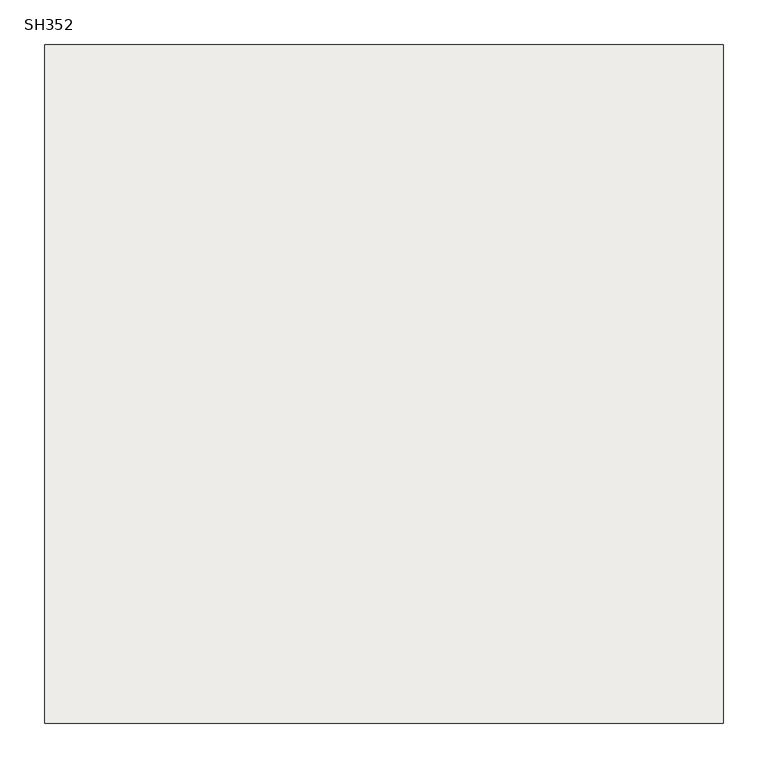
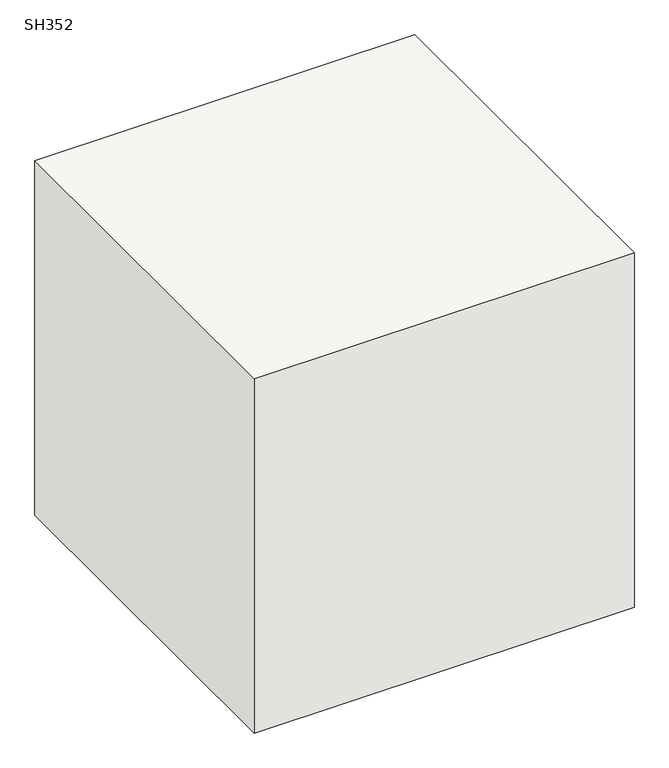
"""IFC4 building model written with IfcOpenShell, lengths in millimetres: slab geometry, 柱形_SH : SH352."""

from ifc_helpers import new_model, si_unit, frame, origin, place, context, project, spatial, polyline, outline, extrude, source, transform, mapped, element, save


def sh352_ad2891c9(model_context):
    return source(origin(), model_context, "Body", "SweptSolid", [
        extrude(outline(polyline([(380.0, 380.0), (380.0, -380.0), (-380.0, -380.0), (-380.0, 380.0), (380.0, 380.0)])), frame((0.0, 0.0, -750.0), z_axis=(0.0, 0.0, 1.0), x_axis=(1.0, 0.0, 0.0)), (0.0, 0.0, 1.0), 750.0),
    ])


if __name__ == "__main__":
    model = new_model("IFC4")
    model_context = context("Model", 3, world=origin())
    ifc_project = project(units=[si_unit("LENGTHUNIT", "METRE", prefix="MILLI")], contexts=[model_context])
    site = spatial("IfcSite", under=ifc_project)
    building = spatial("IfcBuilding", under=site)
    placement = place(None, origin())
    sh352_shape = sh352_ad2891c9(model_context)
    element("IfcSlab", 1, ObjectType="柱形_SH : SH352", at=placement, inside=building, context=model_context, shape_type="MappedRepresentation", body=[
        mapped(sh352_shape, transform((0.0, 0.0, 0.0), x_axis=(1.0, 0.0, 0.0), y_axis=(0.0, 1.0, 0.0), z_axis=(0.0, 0.0, 1.0))),
    ])
    save(model, "model.ifc")
